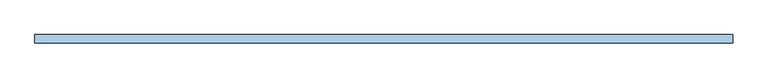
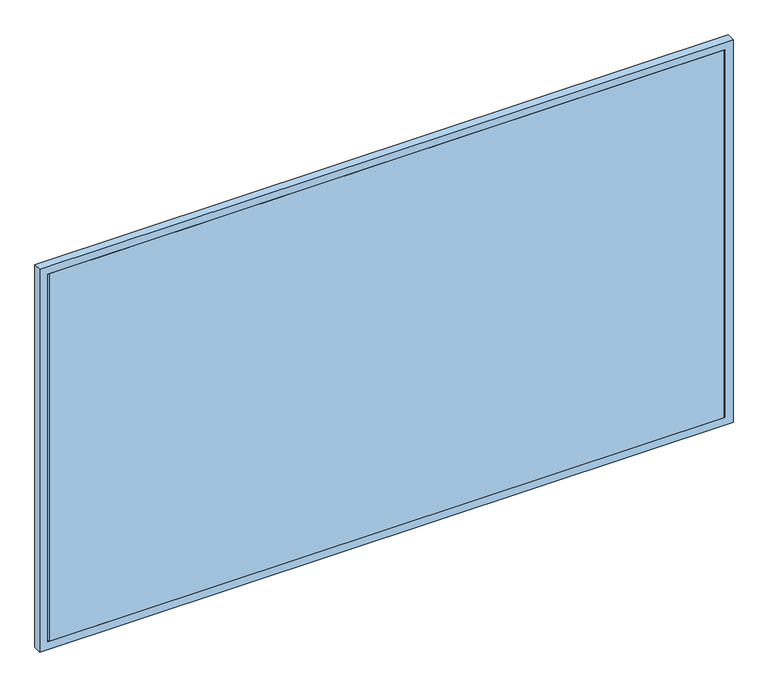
"""IFC4 building model written with IfcOpenShell, lengths in millimetres: window geometry, 2_12_Окно_Открывание-2 : Тип 1."""

from ifc_helpers import new_model, si_unit, frame, origin, place, context, project, spatial, polyline, outline, extrude, source, transform, mapped, element, save


def window_f7cbbf08(model_context):
    return source(origin(), model_context, "Body", "SweptSolid", [
        extrude(outline(polyline([(-1125.0, 125.0), (1375.0, 125.0), (1375.0, 95.0), (-1125.0, 95.0), (-1125.0, 125.0)])), frame((0.0, 0.0, 960.0), z_axis=(0.0, 0.0, 1.0), x_axis=(1.0, 0.0, 0.0)), (0.0, 0.0, 1.0), 1440.0),
        extrude(outline(polyline([(140.0, 125.0), (140.0, 95.0), (110.0, 95.0), (110.0, 125.0), (140.0, 125.0)])), frame((0.0, 0.0, 960.0), z_axis=(0.0, 0.0, 1.0), x_axis=(1.0, 0.0, 0.0)), (0.0, 0.0, 1.0), 1440.0),
        extrude(outline(polyline([(2430.0, 1410.0), (2430.0, -1160.0), (930.0, -1160.0), (930.0, 1410.0), (2430.0, 1410.0)]), holes=[polyline([(960.0, 1380.0), (960.0, -1130.0), (2400.0, -1130.0), (2400.0, 1380.0), (960.0, 1380.0)])]), frame((0.0, 95.0, 0.0), z_axis=(0.0, 1.0, 0.0), x_axis=(0.0, 0.0, 1.0)), (0.0, 0.0, 1.0), 30.0),
    ])


if __name__ == "__main__":
    model = new_model("IFC4")
    model_context = context("Model", 3, world=origin())
    ifc_project = project(units=[si_unit("LENGTHUNIT", "METRE", prefix="MILLI")], contexts=[model_context])
    site = spatial("IfcSite", under=ifc_project)
    building = spatial("IfcBuilding", under=site)
    placement = place(None, origin())
    window_shape = window_f7cbbf08(model_context)
    element("IfcWindow", 1, ObjectType="2_12_Окно_Открывание-2 : Тип 1", at=placement, inside=building, context=model_context, shape_type="MappedRepresentation", body=[
        mapped(window_shape, transform((0.0, 0.0, 0.0), x_axis=(1.0, 0.0, 0.0), y_axis=(0.0, 1.0, 0.0), z_axis=(0.0, 0.0, 1.0))),
    ])
    save(model, "model.ifc")
